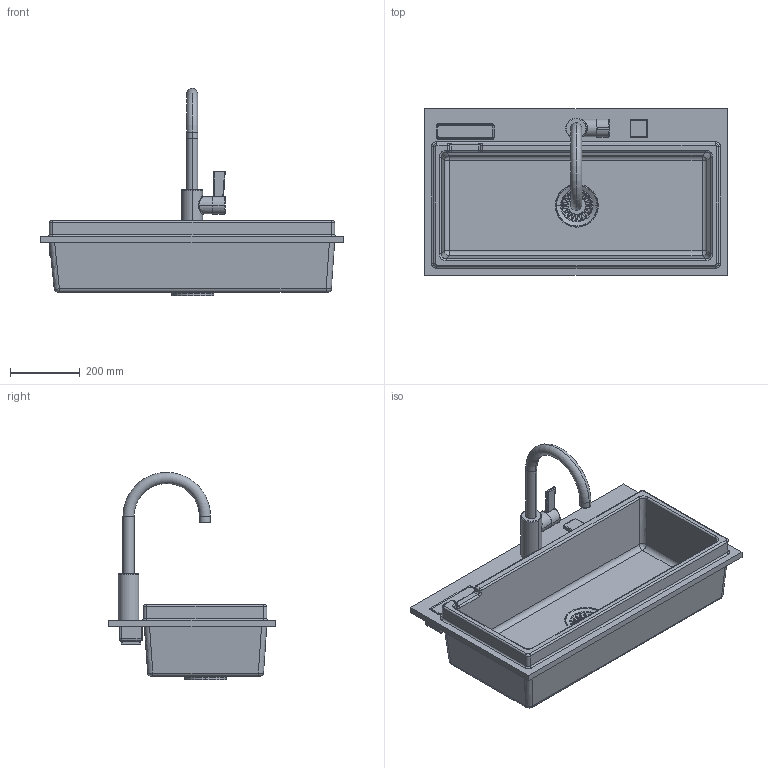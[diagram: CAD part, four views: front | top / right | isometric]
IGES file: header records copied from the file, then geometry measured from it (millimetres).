
Global section: file name: No Iges File Name specified; native system: Autodesk Inventor 2009; preprocessor: AutoDesk Inventor Iges Exporter R2009; author: Andreas; date: 20100324.134509; units: millimetre
Bounding box: 870 x 480 x 595.8 mm (x, y, z)
Volume: 22606701 mm3; surface area: 1789443.4 mm2
Topology: 6 solids, 6 shells, 541 faces, 1453 edges, 894 vertices
Faces by surface type: plane 182, revolution 154, cylinder 94, bspline 46, torus 41, sphere 16, cone 8
